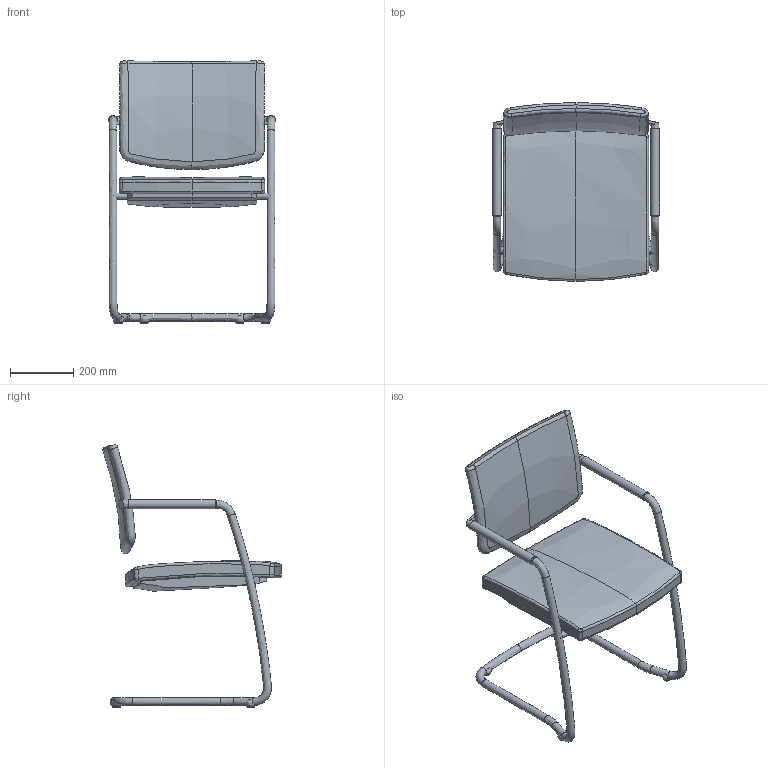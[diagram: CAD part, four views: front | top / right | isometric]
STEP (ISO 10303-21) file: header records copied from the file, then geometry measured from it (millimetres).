
FILE_DESCRIPTION(/* description */ (''),/* implementation_level */ '2;1');
FILE_NAME(/* name */ 'Seance 096-KZ',/* time_stamp */ '2020-03-26T12:46:49+01:00',/* author */ (''),/* organization */ (''),/* preprocessor_version */ 'ST-DEVELOPER v16.5',/* originating_system */ '',/* authorisation */ '');
FILE_SCHEMA (('AUTOMOTIVE_DESIGN'));
Length unit declared in the file: millimetre
Products named in the file (1): Document
Bounding box: 528.94 x 564.47 x 830.77 mm (x, y, z)
Volume: 17851273.9 mm3; surface area: 1404051.6 mm2
Topology: 5 solids, 11 shells, 110 faces, 233 edges, 141 vertices
Faces by surface type: bspline 90, plane 20
Entity records: 8145 total; most frequent: CARTESIAN_POINT 6610, ORIENTED_EDGE 446, EDGE_CURVE 230, B_SPLINE_CURVE_WITH_KNOTS 150, VERTEX_POINT 135, ADVANCED_FACE 110, FACE_OUTER_BOUND 110, EDGE_LOOP 110
